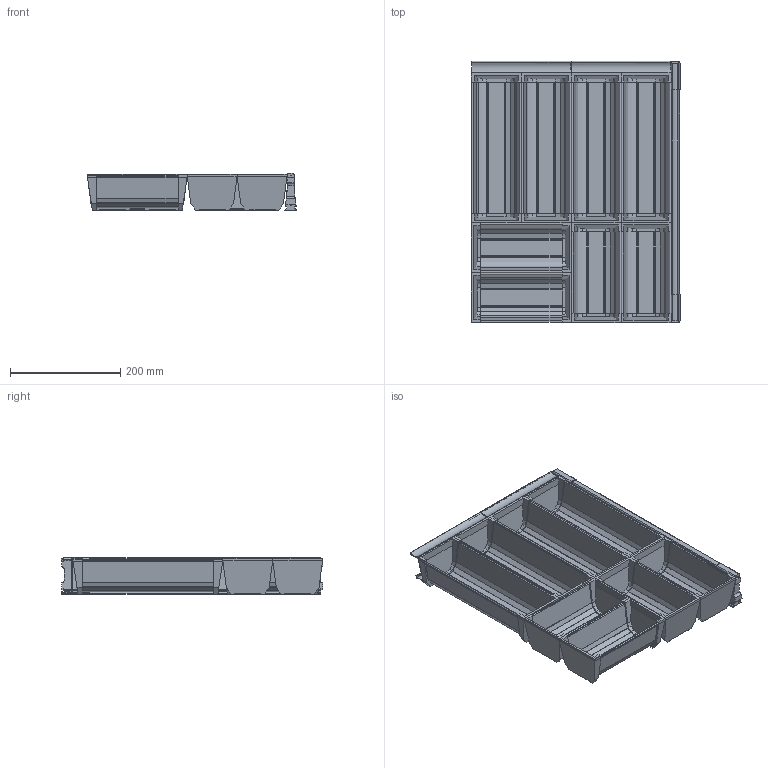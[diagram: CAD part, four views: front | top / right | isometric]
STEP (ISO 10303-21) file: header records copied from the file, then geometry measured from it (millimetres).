
FILE_DESCRIPTION (( 'STEP AP214' ), '1' );
FILE_NAME ('Magic-Sorto_B4_NL-500.STEP', '2010-08-17T11:33:30', ( 'grass' ), ( '' ), 'SwSTEP 2.0', 'SolidWorks 2010', '' );
FILE_SCHEMA (( 'AUTOMOTIVE_DESIGN' ));
Length unit declared in the file: millimetre
Products named in the file (1): Magic-Sorto_B4_NL-500
Bounding box: 379.4 x 473.5 x 67.5 mm (x, y, z)
Volume: 989967 mm3; surface area: 972316.5 mm2
Topology: 11 solids, 11 shells, 1065 faces, 3081 edges, 2054 vertices
Faces by surface type: plane 705, cylinder 360
Entity records: 47094 total; most frequent: CARTESIAN_POINT 6971, ORIENTED_EDGE 6162, DIRECTION 5689, EDGE_CURVE 3081, VECTOR 2313, LINE 2313, VERTEX_POINT 2054, AXIS2_PLACEMENT_3D 1688
